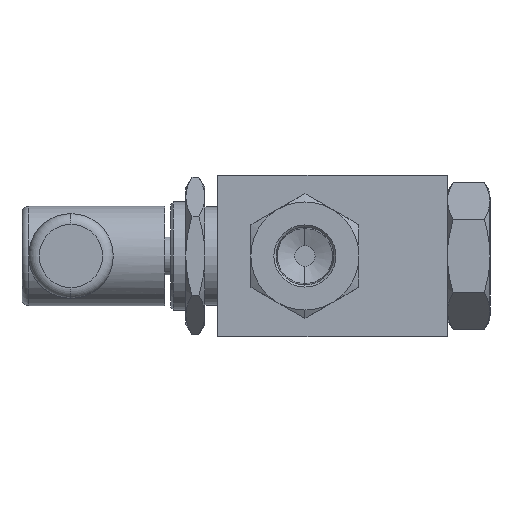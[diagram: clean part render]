
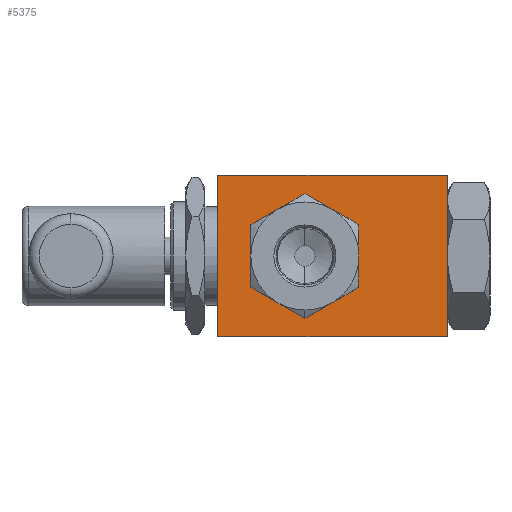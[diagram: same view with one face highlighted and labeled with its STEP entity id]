
A CAD part, left-side view. The second image highlights one B-rep face of the part: STEP entity #5375.
In plain terms, the highlighted planar face has unit normal (-1, 0, 0).
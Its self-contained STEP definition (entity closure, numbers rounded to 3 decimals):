
#2 = CARTESIAN_POINT ( 'NONE',  ( -33.25, -27., 19. ) ) ;
#7 = EDGE_CURVE ( 'NONE', #4017, #4926, #3015, .T. ) ;
#56 = LINE ( 'NONE', #3347, #1271 ) ;
#61 = DIRECTION ( 'NONE',  ( 1., 0., 0. ) ) ;
#233 = ORIENTED_EDGE ( 'NONE', *, *, #3428, .T. ) ;
#293 = AXIS2_PLACEMENT_3D ( 'NONE', #5292, #3901, #4775 ) ;
#330 = ORIENTED_EDGE ( 'NONE', *, *, #5771, .F. ) ;
#364 = DIRECTION ( 'NONE',  ( 0., 0., -1. ) ) ;
#476 = DIRECTION ( 'NONE',  ( 0., 0., -1. ) ) ;
#480 = ORIENTED_EDGE ( 'NONE', *, *, #5441, .T. ) ;
#537 = PLANE ( 'NONE',  #1786 ) ;
#608 = ORIENTED_EDGE ( 'NONE', *, *, #2158, .T. ) ;
#643 = EDGE_LOOP ( 'NONE', ( #608, #3710, #330, #1756 ) ) ;
#673 = CARTESIAN_POINT ( 'NONE',  ( -33.25, 12., -9.526 ) ) ;
#929 = DIRECTION ( 'NONE',  ( 1., 0., 0. ) ) ;
#1057 = CARTESIAN_POINT ( 'NONE',  ( -33.25, -27., 19. ) ) ;
#1090 = AXIS2_PLACEMENT_3D ( 'NONE', #1839, #929, #3225 ) ;
#1126 = DIRECTION ( 'NONE',  ( 1., 0., 0. ) ) ;
#1271 = VECTOR ( 'NONE', #4781, 1000. ) ;
#1756 = ORIENTED_EDGE ( 'NONE', *, *, #6110, .T. ) ;
#1774 = AXIS2_PLACEMENT_3D ( 'NONE', #3384, #1126, #2476 ) ;
#1786 = AXIS2_PLACEMENT_3D ( 'NONE', #2, #61, #1904 ) ;
#1789 = ORIENTED_EDGE ( 'NONE', *, *, #3837, .T. ) ;
#1839 = CARTESIAN_POINT ( 'NONE',  ( -33.25, 6.5, 0. ) ) ;
#1904 = DIRECTION ( 'NONE',  ( 0., 0., -1. ) ) ;
#2109 = CARTESIAN_POINT ( 'NONE',  ( -33.25, 12., 9.526 ) ) ;
#2158 = EDGE_CURVE ( 'NONE', #3277, #4926, #56, .T. ) ;
#2247 = EDGE_CURVE ( 'NONE', #2983, #4739, #4208, .T. ) ;
#2267 = CIRCLE ( 'NONE', #5468, 11. ) ;
#2332 = CARTESIAN_POINT ( 'NONE',  ( -33.25, 1., 9.526 ) ) ;
#2476 = DIRECTION ( 'NONE',  ( 0., 0., -1. ) ) ;
#2612 = LINE ( 'NONE', #4528, #3913 ) ;
#2642 = CIRCLE ( 'NONE', #5444, 11. ) ;
#2732 = DIRECTION ( 'NONE',  ( 1., 0., 0. ) ) ;
#2778 = ORIENTED_EDGE ( 'NONE', *, *, #2247, .T. ) ;
#2843 = CIRCLE ( 'NONE', #293, 11. ) ;
#2846 = CIRCLE ( 'NONE', #1090, 11. ) ;
#2897 = DIRECTION ( 'NONE',  ( 0., 0., -1. ) ) ;
#2924 = CARTESIAN_POINT ( 'NONE',  ( -33.25, 17.5, 0. ) ) ;
#2940 = VERTEX_POINT ( 'NONE', #5063 ) ;
#2983 = VERTEX_POINT ( 'NONE', #2332 ) ;
#3015 = LINE ( 'NONE', #5431, #4484 ) ;
#3157 = VERTEX_POINT ( 'NONE', #5985 ) ;
#3225 = DIRECTION ( 'NONE',  ( 0., 0., -1. ) ) ;
#3277 = VERTEX_POINT ( 'NONE', #4565 ) ;
#3347 = CARTESIAN_POINT ( 'NONE',  ( -33.25, -27., -19. ) ) ;
#3384 = CARTESIAN_POINT ( 'NONE',  ( -33.25, 6.5, 0. ) ) ;
#3428 = EDGE_CURVE ( 'NONE', #5501, #3459, #2843, .T. ) ;
#3459 = VERTEX_POINT ( 'NONE', #2924 ) ;
#3583 = EDGE_LOOP ( 'NONE', ( #480, #233, #4549, #5490, #5817, #2778, #1789 ) ) ;
#3710 = ORIENTED_EDGE ( 'NONE', *, *, #7, .F. ) ;
#3806 = CARTESIAN_POINT ( 'NONE',  ( -33.25, -4.5, 0. ) ) ;
#3837 = EDGE_CURVE ( 'NONE', #4739, #4829, #2846, .T. ) ;
#3851 = AXIS2_PLACEMENT_3D ( 'NONE', #5296, #4235, #2897 ) ;
#3901 = DIRECTION ( 'NONE',  ( 1., 0., 0. ) ) ;
#3913 = VECTOR ( 'NONE', #5981, 1000. ) ;
#4005 = EDGE_CURVE ( 'NONE', #2940, #2983, #4452, .T. ) ;
#4010 = CARTESIAN_POINT ( 'NONE',  ( -33.25, 1., -9.526 ) ) ;
#4017 = VERTEX_POINT ( 'NONE', #1057 ) ;
#4194 = DIRECTION ( 'NONE',  ( 1., 0., 0. ) ) ;
#4208 = CIRCLE ( 'NONE', #5997, 11. ) ;
#4209 = EDGE_CURVE ( 'NONE', #3459, #5889, #2642, .T. ) ;
#4235 = DIRECTION ( 'NONE',  ( 1., 0., 0. ) ) ;
#4271 = FACE_OUTER_BOUND ( 'NONE', #643, .T. ) ;
#4339 = CARTESIAN_POINT ( 'NONE',  ( -33.25, -27., 19. ) ) ;
#4452 = CIRCLE ( 'NONE', #1774, 11. ) ;
#4483 = DIRECTION ( 'NONE',  ( 0., 0., -1. ) ) ;
#4484 = VECTOR ( 'NONE', #4483, 1000. ) ;
#4528 = CARTESIAN_POINT ( 'NONE',  ( -33.25, 27., 19. ) ) ;
#4534 = EDGE_CURVE ( 'NONE', #5889, #2940, #5868, .T. ) ;
#4549 = ORIENTED_EDGE ( 'NONE', *, *, #4209, .T. ) ;
#4565 = CARTESIAN_POINT ( 'NONE',  ( -33.25, 27., -19. ) ) ;
#4582 = DIRECTION ( 'NONE',  ( 0., 0., -1. ) ) ;
#4695 = CARTESIAN_POINT ( 'NONE',  ( -33.25, -27., -19. ) ) ;
#4698 = CARTESIAN_POINT ( 'NONE',  ( -33.25, 6.5, 0. ) ) ;
#4739 = VERTEX_POINT ( 'NONE', #3806 ) ;
#4775 = DIRECTION ( 'NONE',  ( 0., 0., -1. ) ) ;
#4781 = DIRECTION ( 'NONE',  ( 0., -1., 0. ) ) ;
#4829 = VERTEX_POINT ( 'NONE', #4010 ) ;
#4866 = DIRECTION ( 'NONE',  ( 0., -1., 0. ) ) ;
#4926 = VERTEX_POINT ( 'NONE', #4695 ) ;
#4985 = CARTESIAN_POINT ( 'NONE',  ( -33.25, 6.5, 0. ) ) ;
#5063 = CARTESIAN_POINT ( 'NONE',  ( -33.25, 6.5, 11. ) ) ;
#5272 = FACE_BOUND ( 'NONE', #3583, .T. ) ;
#5292 = CARTESIAN_POINT ( 'NONE',  ( -33.25, 6.5, 0. ) ) ;
#5296 = CARTESIAN_POINT ( 'NONE',  ( -33.25, 6.5, 0. ) ) ;
#5331 = VECTOR ( 'NONE', #4866, 1000. ) ;
#5375 = ADVANCED_FACE ( 'NONE', ( #4271, #5272 ), #537, .F. ) ;
#5376 = LINE ( 'NONE', #4339, #5331 ) ;
#5431 = CARTESIAN_POINT ( 'NONE',  ( -33.25, -27., 19. ) ) ;
#5441 = EDGE_CURVE ( 'NONE', #4829, #5501, #2267, .T. ) ;
#5444 = AXIS2_PLACEMENT_3D ( 'NONE', #4698, #4194, #476 ) ;
#5468 = AXIS2_PLACEMENT_3D ( 'NONE', #4985, #2732, #4582 ) ;
#5490 = ORIENTED_EDGE ( 'NONE', *, *, #4534, .T. ) ;
#5501 = VERTEX_POINT ( 'NONE', #673 ) ;
#5621 = CARTESIAN_POINT ( 'NONE',  ( -33.25, 6.5, 0. ) ) ;
#5771 = EDGE_CURVE ( 'NONE', #3157, #4017, #5376, .T. ) ;
#5817 = ORIENTED_EDGE ( 'NONE', *, *, #4005, .T. ) ;
#5868 = CIRCLE ( 'NONE', #3851, 11. ) ;
#5889 = VERTEX_POINT ( 'NONE', #2109 ) ;
#5981 = DIRECTION ( 'NONE',  ( 0., 0., -1. ) ) ;
#5985 = CARTESIAN_POINT ( 'NONE',  ( -33.25, 27., 19. ) ) ;
#5997 = AXIS2_PLACEMENT_3D ( 'NONE', #5621, #6035, #364 ) ;
#6035 = DIRECTION ( 'NONE',  ( 1., 0., 0. ) ) ;
#6110 = EDGE_CURVE ( 'NONE', #3157, #3277, #2612, .T. ) ;
